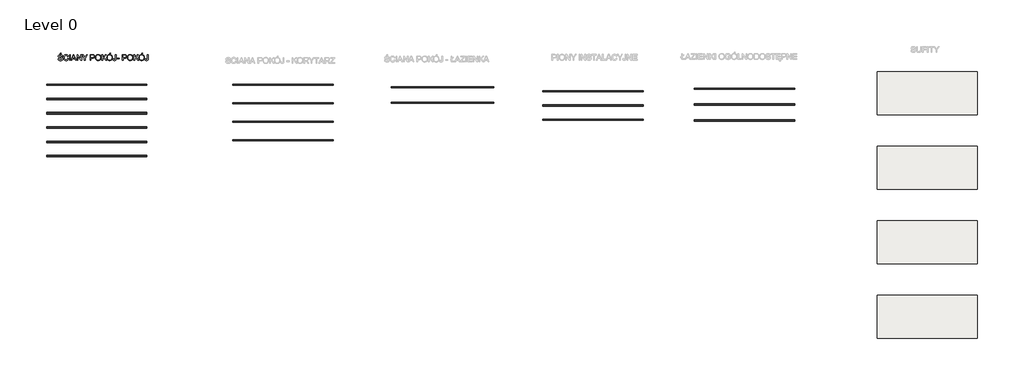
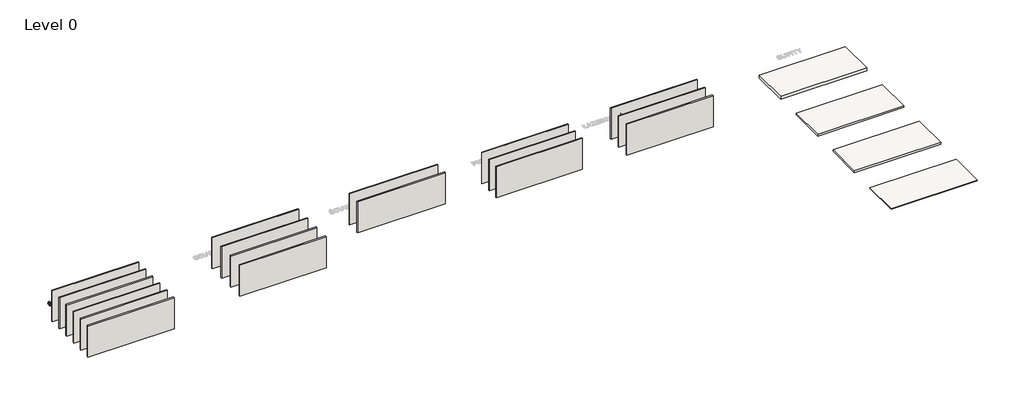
# One storey, part 1 of 4: 18 walls, 4 coverings, 1 proxy.
"""IFC4 building model written with IfcOpenShell, lengths in millimetres."""

from ifc_helpers import new_model, si_unit, frame, origin, origin_with_axes, place, context, project, spatial, polyline, outline, extrude, element, save

model = new_model("IFC4")

# Units and contexts
model_context = context("Model", 3, world=origin())
ifc_project = project(units=[si_unit("LENGTHUNIT", "METRE", prefix="MILLI")], contexts=[model_context])

# Site, building, storey
site = spatial("IfcSite", under=ifc_project)
building = spatial("IfcBuilding", under=site)
storey = spatial("IfcBuildingStorey", under=building, Name="Level 0", Elevation=0.0)

# Proxy
placement = place(None, origin())
element("IfcBuildingElementProxy", 1, Name="600mm Arial", ObjectType="600mm Arial", at=placement, inside=storey, context=model_context, shape_type="SweptSolid", body=[
    extrude(outline(polyline([(56580.0201357, 14469.7405008), (56655.3623684, 14469.7405008), (56664.0075952, 14427.930712), (56679.64258, 14394.3246918), (56704.0331563, 14367.6532471), (56738.9451577, 14346.6471852), (56781.6194691, 14333.0171573), (56829.2969757, 14328.4738146), (56871.2723113, 14331.9135113), (56908.0237226, 14342.2326012), (56937.8037702, 14358.5665618), (56958.8650144, 14380.0508703), (56971.3913963, 14404.7173581), (56975.566857, 14430.5978565), (56972.43986, 14455.8161673), (56963.0588691, 14477.6131755), (56944.0025818, 14496.2096103), (56911.8496954, 14511.826201), (56802.1472844, 14540.594573), (56730.1343839, 14559.6324663), (56684.057164, 14577.7506546), (56646.5515946, 14603.097724), (56619.9721204, 14633.8158706), (56604.1348005, 14669.2429068), (56598.8556939, 14708.7166448), (56600.4881703, 14731.152848), (56605.3855993, 14752.8440902), (56613.5479811, 14773.7903713), (56624.9753156, 14793.9916913), (56639.538844, 14812.6249144), (56657.1098078, 14828.8669045), (56677.6882069, 14842.7176616), (56701.2740414, 14854.1771857), (56754.2858369, 14869.5730472), (56812.9630151, 14874.7050011), (56876.5330239, 14869.3339239), (56932.1567815, 14853.2206925), (56956.4921755, 14841.2185424), (56977.8477253, 14826.6964007), (56996.223431, 14809.6542673), (57011.6192925, 14790.0921422), (57023.9157482, 14768.5802425), (57032.9932364, 14745.6887854), (57038.8517572, 14721.4177707), (57041.4913105, 14695.7671986), (56966.1490779, 14695.7671986), (56961.1090945, 14719.808287), (56952.3167149, 14740.7223784), (56939.7719388, 14758.5094729), (56923.4747664, 14773.1695704), (56903.1216951, 14784.6290945), (56878.409222, 14792.8144689), (56849.3373474, 14797.7256936), (56815.9060711, 14799.3627684), (56781.407937, 14797.7440877), (56751.9313921, 14792.8880453), (56727.4764365, 14784.7946414), (56708.0430701, 14773.463876), (56693.2358198, 14759.8430451), (56682.6592124, 14744.879445), (56676.313248, 14728.5730755), (56674.1979265, 14710.9239368), (56675.6970456, 14695.7396075), (56680.194403, 14681.9716238), (56687.6899987, 14669.6199858), (56698.1838326, 14658.6846935), (56714.7017342, 14648.3288153), (56740.7109912, 14637.8625726), (56821.2035718, 14616.5989932), (56904.2713263, 14596.4022717), (56954.5240068, 14578.7807241), (56997.4742298, 14551.4470919), (57014.0795033, 14535.3798458), (57027.4382183, 14517.7123129), (57037.7067245, 14498.5364639), (57045.0413717, 14477.9442693), (57050.9090896, 14432.5108429), (57049.2214309, 14408.9434025), (57044.158455, 14386.065741), (57035.7201617, 14363.8778581), (57023.9065511, 14342.379754), (57008.9245569, 14322.4037617), (56990.9811126, 14304.7822141), (56970.0762182, 14289.5151113), (56946.2098737, 14276.6024533), (56920.0764565, 14266.3339471), (56892.3703438, 14258.9992998), (56832.2400316, 14253.131582), (56793.6997941, 14254.7134746), (56758.4245093, 14259.4591523), (56726.4141772, 14267.3686152), (56697.6687978, 14278.4418633), (56672.0136272, 14292.6972906), (56649.2739213, 14310.1532913), (56629.4496803, 14330.8098653), (56612.5409041, 14354.6670127), (56598.9200732, 14380.9521812), (56588.9596682, 14408.8928188), (56582.6596891, 14438.4889253), (56580.0201357, 14469.7405008)])), origin_with_axes(), (0.0, 0.0, 1.0), 50.0),
    extrude(outline(polyline([(56758.9579382, 14902.9583383), (56815.4646127, 15015.9716872), (56909.6424034, 15015.9716872), (56815.4646127, 14902.9583383), (56758.9579382, 14902.9583383)])), origin_with_axes(), (0.0, 0.0, 1.0), 50.0),
    extrude(outline(polyline([(57587.7224969, 14476.8038351), (57663.0647295, 14457.3796657), (57648.1563117, 14410.5252951), (57628.299881, 14369.5846276), (57603.4954375, 14334.5576631), (57573.7429811, 14305.4444017), (57539.7138966, 14282.5575431), (57502.0795685, 14266.2097869), (57460.8399968, 14256.4011332), (57415.9951816, 14253.131582), (57370.0513189, 14255.6055884), (57328.6048136, 14263.0276077), (57291.6556657, 14275.3976398), (57259.2038752, 14292.7156847), (57230.8033852, 14314.7242251), (57206.0081387, 14341.1657435), (57184.8181358, 14372.0402399), (57167.2333764, 14407.3477144), (57153.4240061, 14445.5614566), (57143.5601701, 14485.1547564), (57137.6418685, 14526.1276136), (57135.6691013, 14568.4800283), (57137.8993859, 14613.9226517), (57144.5902396, 14656.3670369), (57155.7416626, 14695.8131839), (57171.3536548, 14732.2610925), (57191.0767283, 14765.1083562), (57214.5613951, 14793.752568), (57241.8076554, 14818.1937281), (57272.8155091, 14838.4318363), (57306.5318939, 14854.3013459), (57341.9037478, 14865.6367099), (57378.9310706, 14872.4379283), (57417.6138624, 14874.7050011), (57460.7066396, 14871.7711421), (57500.2217644, 14862.9695654), (57536.1592368, 14848.3002709), (57568.5190568, 14827.7632585), (57596.7677955, 14801.9011542), (57620.372024, 14771.256584), (57639.3317423, 14735.8295479), (57653.6469505, 14695.6200458), (57578.3047179, 14677.6674044), (57566.4405235, 14707.2957006), (57552.1850962, 14732.6105804), (57535.5384359, 14753.6120438), (57516.5005427, 14770.3000908), (57494.9610518, 14783.0150123), (57470.8095989, 14792.097099), (57444.0461837, 14797.5463511), (57414.6708064, 14799.3627684), (57380.8716481, 14797.3486145), (57349.9603635, 14791.3061528), (57321.9369525, 14781.2353831), (57296.8014151, 14767.1363057), (57274.8710497, 14749.6435168), (57256.4631544, 14729.391613), (57241.5777291, 14706.3805942), (57230.214774, 14680.6104604), (57215.8121939, 14625.4649493), (57211.0113339, 14568.6271811), (57216.6951107, 14499.0239076), (57223.7998317, 14467.753938), (57233.7464412, 14438.8384132), (57246.6958874, 14412.8521487), (57262.8091188, 14390.3699603), (57282.0861353, 14371.3918479), (57304.526937, 14355.9178115), (57329.0416735, 14343.9110628), (57354.5404943, 14335.3348138), (57381.0233994, 14330.1890644), (57408.4903889, 14328.4738146), (57441.245682, 14330.8098653), (57471.379816, 14337.8180173), (57498.8927907, 14349.4982706), (57523.7846062, 14365.8506253), (57545.4666513, 14386.801505), (57563.3503148, 14412.2773331), (57577.4355966, 14442.2781098), (57587.7224969, 14476.8038351)])), origin_with_axes(), (0.0, 0.0, 1.0), 50.0),
    extrude(outline(polyline([(57776.0780785, 14262.5493611), (57776.0780785, 14865.287222), (57851.4203111, 14865.287222), (57851.4203111, 14262.5493611), (57776.0780785, 14262.5493611)])), origin_with_axes(), (0.0, 0.0, 1.0), 50.0),
    extrude(outline(polyline([(57931.9128916, 14262.5493611), (58172.5077165, 14865.287222), (58236.6663364, 14865.287222), (58477.2611613, 14262.5493611), (58397.6514975, 14262.5493611), (58328.6368352, 14450.9049426), (58080.3900649, 14450.9049426), (58011.5225554, 14262.5493611), (57931.9128916, 14262.5493611)]), holes=[polyline([(58108.0547909, 14526.2471752), (58301.119262, 14526.2471752), (58246.8198795, 14674.4300429), (58204.5870264, 14789.9449894), (58167.0630629, 14687.3794891), (58108.0547909, 14526.2471752)])]), origin_with_axes(), (0.0, 0.0, 1.0), 50.0),
    extrude(outline(polyline([(58557.7537418, 14262.5493611), (58557.7537418, 14865.287222), (58638.3934752, 14865.287222), (58953.300463, 14387.7763922), (58953.300463, 14865.287222), (59028.6426956, 14865.287222), (59028.6426956, 14262.5493611), (58948.0029623, 14262.5493611), (58633.0959744, 14740.2073436), (58633.0959744, 14262.5493611), (58557.7537418, 14262.5493611)])), origin_with_axes(), (0.0, 0.0, 1.0), 50.0),
    extrude(outline(polyline([(59330.0116261, 14262.5493611), (59330.0116261, 14517.8594657), (59094.5671492, 14865.287222), (59183.4474392, 14865.287222), (59309.1159288, 14679.7275436), (59373.4217015, 14585.1082945), (59437.8746271, 14686.4965723), (59551.9180456, 14865.287222), (59640.7983356, 14865.287222), (59405.3538587, 14517.8594657), (59405.3538587, 14262.5493611), (59330.0116261, 14262.5493611)])), origin_with_axes(), (0.0, 0.0, 1.0), 50.0),
    extrude(outline(polyline([(59942.1672661, 14262.5493611), (59942.1672661, 14865.287222), (60165.5452135, 14865.287222), (60217.5637277, 14863.8524822), (60255.602726, 14859.5482629), (60295.7570457, 14848.8245027), (60328.811243, 14831.368502), (60355.4275053, 14806.3893146), (60376.2680204, 14773.095994), (60389.7325014, 14733.824591), (60394.2206617, 14690.9111563), (60391.1902338, 14653.9114246), (60382.09895, 14619.873143), (60366.9468103, 14588.7963115), (60345.7338148, 14560.68093), (60316.6113563, 14537.3756056), (60277.730828, 14520.7289453), (60229.0922297, 14510.7409491), (60170.6955615, 14507.4116171), (60017.5094987, 14507.4116171), (60017.5094987, 14262.5493611), (59942.1672661, 14262.5493611)]), holes=[polyline([(60017.5094987, 14582.7538497), (60175.1101454, 14582.7538497), (60211.3465219, 14584.4828951), (60241.9175157, 14589.6700312), (60266.8231268, 14598.3152581), (60286.0633552, 14610.4185757), (60300.41995, 14625.6580874), (60310.6746606, 14643.7118963), (60316.827487, 14664.5800025), (60318.8784291, 14688.2624059), (60314.0407809, 14722.1075495), (60299.5278362, 14750.6551923), (60277.1422168, 14772.1395008), (60248.6865444, 14784.7946414), (60219.6238668, 14788.6574024), (60173.3443118, 14789.9449894), (60017.5094987, 14789.9449894), (60017.5094987, 14582.7538497)])]), origin_with_axes(), (0.0, 0.0, 1.0), 50.0),
    extrude(outline(polyline([(60469.5628944, 14555.9720404), (60474.5844836, 14626.6697629), (60489.6492513, 14689.2556873), (60514.7571975, 14743.7298137), (60531.0773625, 14767.9249527), (60549.9083221, 14790.0921422), (60592.9965008, 14827.1102679), (60641.9156091, 14853.5517863), (60696.665647, 14869.4166974), (60757.2466146, 14874.7050011), (60797.7964075, 14872.2217976), (60836.3044553, 14864.7721872), (60872.7707581, 14852.3561699), (60907.1953158, 14834.9737456), (60938.6124382, 14813.1491462), (60966.056435, 14787.4066036), (60989.5273063, 14757.7461177), (61009.0250521, 14724.1676886), (61024.3473372, 14687.4346714), (61035.2918265, 14648.3104212), (61041.8585201, 14606.7949381), (61044.047418, 14562.8882219), (61041.743557, 14518.4020917), (61034.831974, 14476.3255885), (61023.3126691, 14436.6587124), (61007.1856421, 14399.4014633), (60986.8325707, 14365.5379256), (60962.6351325, 14336.0521837), (60934.5933274, 14310.9442375), (60902.7071555, 14290.2140871), (60868.232014, 14273.9904911), (60832.4233003, 14262.4022083), (60795.2810144, 14255.4492386), (60756.8051562, 14253.131582), (60715.5471904, 14255.6929604), (60676.5333048, 14263.3770956), (60639.7634994, 14276.1839875), (60605.2377742, 14294.1136363), (60573.85744, 14316.4716645), (60546.5238077, 14342.563695), (60523.2368774, 14372.3897278), (60503.9966491, 14405.9497628), (60488.9318814, 14441.8964323), (60478.171333, 14478.8823683), (60471.715004, 14516.9075711), (60469.5628944, 14555.9720404)]), holes=[polyline([(60544.905127, 14555.2362764), (60548.6713189, 14505.2870986), (60559.9698947, 14460.9481211), (60578.8008543, 14422.219344), (60605.1641978, 14389.1007674), (60637.2113181, 14362.5764756), (60673.0936082, 14343.6305528), (60712.8110681, 14332.2629992), (60756.3636978, 14328.4738146), (60800.6612885, 14332.2997874), (60840.847798, 14343.7777056), (60876.9232261, 14362.9075694), (60908.887573, 14389.6893786), (60935.0577784, 14423.506931), (60953.7507823, 14463.7440242), (60964.9665846, 14510.4006583), (60968.7051854, 14563.4768331), (60967.1048987, 14597.9565731), (60962.3040387, 14630.1738389), (60954.3026053, 14660.1286303), (60943.1005985, 14687.8209475), (60928.8221786, 14712.887507), (60911.5915057, 14734.9650252), (60891.4085797, 14754.0535022), (60868.2734007, 14770.152938), (60842.9033386, 14782.9322388), (60816.0157633, 14792.0603108), (60787.6106748, 14797.537154), (60757.688073, 14799.3627684), (60715.648358, 14795.8448969), (60676.6436694, 14785.2912821), (60640.6740074, 14767.7019242), (60607.7393717, 14743.0768232), (60580.2493896, 14710.2295595), (60560.6136882, 14667.9737139), (60548.8322673, 14616.3092862), (60544.905127, 14555.2362764)])]), origin_with_axes(), (0.0, 0.0, 1.0), 50.0),
    extrude(outline(polyline([(61147.6429879, 14262.5493611), (61147.6429879, 14865.287222), (61222.9852205, 14865.287222), (61222.9852205, 14570.2458619), (61532.0060964, 14865.287222), (61637.3674998, 14865.287222), (61377.9371168, 14617.48191), (61646.7852789, 14262.5493611), (61554.6676273, 14262.5493611), (61324.5206511, 14566.5670419), (61222.9852205, 14469.7405008), (61222.9852205, 14262.5493611), (61147.6429879, 14262.5493611)])), origin_with_axes(), (0.0, 0.0, 1.0), 50.0),
    extrude(outline(polyline([(61910.4830931, 14902.9583383), (61966.9897675, 15015.9716872), (62061.1675583, 15015.9716872), (61966.9897675, 14902.9583383), (61910.4830931, 14902.9583383)])), origin_with_axes(), (0.0, 0.0, 1.0), 50.0),
    extrude(outline(polyline([(61675.0386161, 14555.9720404), (61680.0602054, 14626.6697629), (61695.1249731, 14689.2556873), (61720.2329193, 14743.7298137), (61736.5530843, 14767.9249527), (61755.3840439, 14790.0921422), (61798.4722226, 14827.1102679), (61847.3913309, 14853.5517863), (61902.1413688, 14869.4166974), (61962.7223364, 14874.7050011), (62003.2721293, 14872.2217976), (62041.7801771, 14864.7721872), (62078.2464799, 14852.3561699), (62112.6710376, 14834.9737456), (62144.08816, 14813.1491462), (62171.5321568, 14787.4066036), (62195.0030281, 14757.7461177), (62214.5007739, 14724.1676886), (62229.823059, 14687.4346714), (62240.7675483, 14648.3104212), (62247.3342419, 14606.7949381), (62249.5231398, 14562.8882219), (62247.2192788, 14518.4020917), (62240.3076958, 14476.3255885), (62228.7883909, 14436.6587124), (62212.6613639, 14399.4014633), (62192.3082925, 14365.5379256), (62168.1108543, 14336.0521837), (62140.0690492, 14310.9442375), (62108.1828773, 14290.2140871), (62073.7077358, 14273.9904911), (62037.8990221, 14262.4022083), (62000.7567362, 14255.4492386), (61962.280878, 14253.131582), (61921.0229122, 14255.6929604), (61882.0090266, 14263.3770956), (61845.2392212, 14276.1839875), (61810.713496, 14294.1136363), (61779.3331618, 14316.4716645), (61751.9995295, 14342.563695), (61728.7125992, 14372.3897278), (61709.4723709, 14405.9497628), (61694.4076032, 14441.8964323), (61683.6470548, 14478.8823683), (61677.1907258, 14516.9075711), (61675.0386161, 14555.9720404)]), holes=[polyline([(61750.3808488, 14555.2362764), (61754.1470407, 14505.2870986), (61765.4456165, 14460.9481211), (61784.2765761, 14422.219344), (61810.6399196, 14389.1007674), (61842.6870399, 14362.5764756), (61878.56933, 14343.6305528), (61918.2867899, 14332.2629992), (61961.8394196, 14328.4738146), (62006.1370103, 14332.2997874), (62046.3235198, 14343.7777056), (62082.3989479, 14362.9075694), (62114.3632948, 14389.6893786), (62140.5335002, 14423.506931), (62159.2265041, 14463.7440242), (62170.4423064, 14510.4006583), (62174.1809072, 14563.4768331), (62172.5806205, 14597.9565731), (62167.7797605, 14630.1738389), (62159.7783271, 14660.1286303), (62148.5763203, 14687.8209475), (62134.2979004, 14712.887507), (62117.0672275, 14734.9650252), (62096.8843015, 14754.0535022), (62073.7491225, 14770.152938), (62048.3790604, 14782.9322388), (62021.4914851, 14792.0603108), (61993.0863966, 14797.537154), (61963.1637948, 14799.3627684), (61921.1240798, 14795.8448969), (61882.1193912, 14785.2912821), (61846.1497292, 14767.7019242), (61813.2150935, 14743.0768232), (61785.7251114, 14710.2295595), (61766.08941, 14667.9737139), (61754.3079891, 14616.3092862), (61750.3808488, 14555.2362764)])]), origin_with_axes(), (0.0, 0.0, 1.0), 50.0),
    extrude(outline(polyline([(62315.4475933, 14431.7750789), (62390.789826, 14441.4871635), (62393.4477734, 14411.5323721), (62398.6257125, 14386.7095345), (62406.3236432, 14367.0186507), (62416.5415656, 14352.4597207), (62429.1231299, 14341.9658868), (62443.9119861, 14334.4702911), (62460.9081342, 14329.9729338), (62480.1115744, 14328.4738146), (62507.9418473, 14331.8767231), (62531.6886301, 14342.0854484), (62550.0091535, 14358.1618916), (62561.5606481, 14379.1679536), (62567.6858833, 14409.5734005), (62569.7276284, 14453.8479986), (62569.7276284, 14865.287222), (62645.069861, 14865.287222), (62645.069861, 14455.1723738), (62640.5265184, 14388.0890919), (62634.8473401, 14360.9623933), (62626.8964905, 14338.1123229), (62616.476233, 14318.6283727), (62603.388831, 14301.6000349), (62587.6342845, 14287.0273093), (62569.2125936, 14274.9101961), (62526.2991589, 14258.5762355), (62476.5799072, 14253.131582), (62439.4514169, 14255.9412807), (62406.9398456, 14264.370377), (62379.0451933, 14278.4188707), (62355.76746, 14298.0867618), (62337.5205131, 14323.3004741), (62324.7182196, 14353.986431), (62317.3605797, 14390.1446326), (62315.4475933, 14431.7750789)])), origin_with_axes(), (0.0, 0.0, 1.0), 50.0),
    extrude(outline(polyline([(62729.8298727, 14441.4871635), (62729.8298727, 14516.8293962), (62965.2743496, 14516.8293962), (62965.2743496, 14441.4871635), (62729.8298727, 14441.4871635)])), origin_with_axes(), (0.0, 0.0, 1.0), 50.0),
    extrude(outline(polyline([(63294.8966173, 14262.5493611), (63294.8966173, 14865.287222), (63518.2745648, 14865.287222), (63570.2930789, 14863.8524822), (63608.3320772, 14859.5482629), (63648.486397, 14848.8245027), (63681.5405942, 14831.368502), (63708.1568566, 14806.3893146), (63728.9973716, 14773.095994), (63742.4618526, 14733.824591), (63746.950013, 14690.9111563), (63743.919585, 14653.9114246), (63734.8283012, 14619.873143), (63719.6761616, 14588.7963115), (63698.463166, 14560.68093), (63669.3407076, 14537.3756056), (63630.4601792, 14520.7289453), (63581.8215809, 14510.7409491), (63523.4249127, 14507.4116171), (63370.2388499, 14507.4116171), (63370.2388499, 14262.5493611), (63294.8966173, 14262.5493611)]), holes=[polyline([(63370.2388499, 14582.7538497), (63527.8394967, 14582.7538497), (63564.0758732, 14584.4828951), (63594.646867, 14589.6700312), (63619.5524781, 14598.3152581), (63638.7927064, 14610.4185757), (63653.1493013, 14625.6580874), (63663.4040119, 14643.7118963), (63669.5568382, 14664.5800025), (63671.6077804, 14688.2624059), (63666.7701321, 14722.1075495), (63652.2571874, 14750.6551923), (63629.871568, 14772.1395008), (63601.4158957, 14784.7946414), (63572.3532181, 14788.6574024), (63526.0736631, 14789.9449894), (63370.2388499, 14789.9449894), (63370.2388499, 14582.7538497)])]), origin_with_axes(), (0.0, 0.0, 1.0), 50.0),
    extrude(outline(polyline([(63822.2922456, 14555.9720404), (63827.3138348, 14626.6697629), (63842.3786025, 14689.2556873), (63867.4865487, 14743.7298137), (63883.8067137, 14767.9249527), (63902.6376733, 14790.0921422), (63945.725852, 14827.1102679), (63994.6449603, 14853.5517863), (64049.3949983, 14869.4166974), (64109.9759658, 14874.7050011), (64150.5257587, 14872.2217976), (64189.0338066, 14864.7721872), (64225.5001094, 14852.3561699), (64259.9246671, 14834.9737456), (64291.3417894, 14813.1491462), (64318.7857863, 14787.4066036), (64342.2566576, 14757.7461177), (64361.7544033, 14724.1676886), (64377.0766884, 14687.4346714), (64388.0211778, 14648.3104212), (64394.5878714, 14606.7949381), (64396.7767693, 14562.8882219), (64394.4729083, 14518.4020917), (64387.5613253, 14476.3255885), (64376.0420203, 14436.6587124), (64359.9149933, 14399.4014633), (64339.561922, 14365.5379256), (64315.3644837, 14336.0521837), (64287.3226786, 14310.9442375), (64255.4365067, 14290.2140871), (64220.9613652, 14273.9904911), (64185.1526515, 14262.4022083), (64148.0103656, 14255.4492386), (64109.5345074, 14253.131582), (64068.2765417, 14255.6929604), (64029.2626561, 14263.3770956), (63992.4928507, 14276.1839875), (63957.9671254, 14294.1136363), (63926.5867912, 14316.4716645), (63899.253159, 14342.563695), (63875.9662287, 14372.3897278), (63856.7260003, 14405.9497628), (63841.6612326, 14441.8964323), (63830.9006843, 14478.8823683), (63824.4443553, 14516.9075711), (63822.2922456, 14555.9720404)]), holes=[polyline([(63897.6344782, 14555.2362764), (63901.4006701, 14505.2870986), (63912.6992459, 14460.9481211), (63931.5302055, 14422.219344), (63957.893549, 14389.1007674), (63989.9406693, 14362.5764756), (64025.8229594, 14343.6305528), (64065.5404193, 14332.2629992), (64109.093049, 14328.4738146), (64153.3906398, 14332.2997874), (64193.5771492, 14343.7777056), (64229.6525774, 14362.9075694), (64261.6169242, 14389.6893786), (64287.7871297, 14423.506931), (64306.4801335, 14463.7440242), (64317.6959359, 14510.4006583), (64321.4345366, 14563.4768331), (64319.83425, 14597.9565731), (64315.0333899, 14630.1738389), (64307.0319565, 14660.1286303), (64295.8299498, 14687.8209475), (64281.5515298, 14712.887507), (64264.3208569, 14734.9650252), (64244.1379309, 14754.0535022), (64221.002752, 14770.152938), (64195.6326899, 14782.9322388), (64168.7451146, 14792.0603108), (64140.340026, 14797.537154), (64110.4174242, 14799.3627684), (64068.3777092, 14795.8448969), (64029.3730207, 14785.2912821), (63993.4033586, 14767.7019242), (63960.468723, 14743.0768232), (63932.9787409, 14710.2295595), (63913.3430394, 14667.9737139), (63901.5616185, 14616.3092862), (63897.6344782, 14555.2362764)])]), origin_with_axes(), (0.0, 0.0, 1.0), 50.0),
    extrude(outline(polyline([(64500.3723391, 14262.5493611), (64500.3723391, 14865.287222), (64575.7145717, 14865.287222), (64575.7145717, 14570.2458619), (64884.7354477, 14865.287222), (64990.0968511, 14865.287222), (64730.6664681, 14617.48191), (64999.5146302, 14262.5493611), (64907.3969786, 14262.5493611), (64677.2500024, 14566.5670419), (64575.7145717, 14469.7405008), (64575.7145717, 14262.5493611), (64500.3723391, 14262.5493611)])), origin_with_axes(), (0.0, 0.0, 1.0), 50.0),
    extrude(outline(polyline([(65263.2124443, 14902.9583383), (65319.7191188, 15015.9716872), (65413.8969095, 15015.9716872), (65319.7191188, 14902.9583383), (65263.2124443, 14902.9583383)])), origin_with_axes(), (0.0, 0.0, 1.0), 50.0),
    extrude(outline(polyline([(65027.7679674, 14555.9720404), (65032.7895566, 14626.6697629), (65047.8543243, 14689.2556873), (65072.9622705, 14743.7298137), (65089.2824355, 14767.9249527), (65108.1133951, 14790.0921422), (65151.2015738, 14827.1102679), (65200.1206821, 14853.5517863), (65254.8707201, 14869.4166974), (65315.4516876, 14874.7050011), (65356.0014805, 14872.2217976), (65394.5095284, 14864.7721872), (65430.9758312, 14852.3561699), (65465.4003889, 14834.9737456), (65496.8175112, 14813.1491462), (65524.2615081, 14787.4066036), (65547.7323794, 14757.7461177), (65567.2301251, 14724.1676886), (65582.5524102, 14687.4346714), (65593.4968996, 14648.3104212), (65600.0635932, 14606.7949381), (65602.2524911, 14562.8882219), (65599.9486301, 14518.4020917), (65593.0370471, 14476.3255885), (65581.5177421, 14436.6587124), (65565.3907151, 14399.4014633), (65545.0376438, 14365.5379256), (65520.8402055, 14336.0521837), (65492.7984004, 14310.9442375), (65460.9122285, 14290.2140871), (65426.437087, 14273.9904911), (65390.6283733, 14262.4022083), (65353.4860874, 14255.4492386), (65315.0102292, 14253.131582), (65273.7522635, 14255.6929604), (65234.7383779, 14263.3770956), (65197.9685725, 14276.1839875), (65163.4428472, 14294.1136363), (65132.062513, 14316.4716645), (65104.7288808, 14342.563695), (65081.4419505, 14372.3897278), (65062.2017221, 14405.9497628), (65047.1369544, 14441.8964323), (65036.3764061, 14478.8823683), (65029.9200771, 14516.9075711), (65027.7679674, 14555.9720404)]), holes=[polyline([(65103.1102, 14555.2362764), (65106.8763919, 14505.2870986), (65118.1749677, 14460.9481211), (65137.0059273, 14422.219344), (65163.3692708, 14389.1007674), (65195.4163911, 14362.5764756), (65231.2986812, 14343.6305528), (65271.0161411, 14332.2629992), (65314.5687708, 14328.4738146), (65358.8663616, 14332.2997874), (65399.052871, 14343.7777056), (65435.1282992, 14362.9075694), (65467.092646, 14389.6893786), (65493.2628515, 14423.506931), (65511.9558553, 14463.7440242), (65523.1716577, 14510.4006583), (65526.9102584, 14563.4768331), (65525.3099718, 14597.9565731), (65520.5091117, 14630.1738389), (65512.5076783, 14660.1286303), (65501.3056716, 14687.8209475), (65487.0272516, 14712.887507), (65469.7965787, 14734.9650252), (65449.6136527, 14754.0535022), (65426.4784738, 14770.152938), (65401.1084117, 14782.9322388), (65374.2208363, 14792.0603108), (65345.8157478, 14797.537154), (65315.893146, 14799.3627684), (65273.853431, 14795.8448969), (65234.8487425, 14785.2912821), (65198.8790804, 14767.7019242), (65165.9444448, 14743.0768232), (65138.4544627, 14710.2295595), (65118.8187612, 14667.9737139), (65107.0373403, 14616.3092862), (65103.1102, 14555.2362764)])]), origin_with_axes(), (0.0, 0.0, 1.0), 50.0),
    extrude(outline(polyline([(65668.1769446, 14431.7750789), (65743.5191772, 14441.4871635), (65746.1771246, 14411.5323721), (65751.3550637, 14386.7095345), (65759.0529945, 14367.0186507), (65769.2709169, 14352.4597207), (65781.8524811, 14341.9658868), (65796.6413373, 14334.4702911), (65813.6374855, 14329.9729338), (65832.8409256, 14328.4738146), (65860.6711986, 14331.8767231), (65884.4179814, 14342.0854484), (65902.7385047, 14358.1618916), (65914.2899994, 14379.1679536), (65920.4152346, 14409.5734005), (65922.4569797, 14453.8479986), (65922.4569797, 14865.287222), (65997.7992123, 14865.287222), (65997.7992123, 14455.1723738), (65993.2558696, 14388.0890919), (65987.5766913, 14360.9623933), (65979.6258417, 14338.1123229), (65969.2055842, 14318.6283727), (65956.1181822, 14301.6000349), (65940.3636358, 14287.0273093), (65921.9419449, 14274.9101961), (65879.0285101, 14258.5762355), (65829.3092585, 14253.131582), (65792.1807681, 14255.9412807), (65759.6691968, 14264.370377), (65731.7745445, 14278.4188707), (65708.4968113, 14298.0867618), (65690.2498643, 14323.3004741), (65677.4475709, 14353.986431), (65670.089931, 14390.1446326), (65668.1769446, 14431.7750789)])), origin_with_axes(), (0.0, 0.0, 1.0), 50.0),
])

# Coverings
element("IfcCovering", 2, ObjectType="Nida Sufit DK/WO/CD60-12,5/SonicC12n0", at=placement, inside=storey, context=model_context, shape_type="SweptSolid", body=[
    extrude(outline(polyline([(152819.3958424, 13061.6831257), (152819.3958424, 8561.6831257), (142319.3958424, 8561.6831257), (142319.3958424, 13061.6831257), (152819.3958424, 13061.6831257)])), frame((0.0, 0.0, 100.0), z_axis=(0.0, 0.0, 1.0), x_axis=(1.0, 0.0, 0.0)), (0.0, 0.0, 1.0), 400.0),
])
element("IfcCovering", 3, ObjectType="Nida Sufit DK/WO/CD60-12,5/Expert", at=placement, inside=storey, context=model_context, shape_type="SweptSolid", body=[
    extrude(outline(polyline([(152819.3958424, 5273.6803076), (152819.3958424, 773.6803076), (142319.3958424, 773.6803076), (142319.3958424, 5273.6803076), (152819.3958424, 5273.6803076)])), frame((0.0, 0.0, 100.0), z_axis=(0.0, 0.0, 1.0), x_axis=(1.0, 0.0, 0.0)), (0.0, 0.0, 1.0), 222.5),
])
element("IfcCovering", 4, ObjectType="Nida Sufit DK/WO/CD60-25/Expert", at=placement, inside=storey, context=model_context, shape_type="SweptSolid", body=[
    extrude(outline(polyline([(152819.3958424, -2514.3225104), (152819.3958424, -7014.3225104), (142319.3958424, -7014.3225104), (142319.3958424, -2514.3225104), (152819.3958424, -2514.3225104)])), frame((0.0, 0.0, 100.0), z_axis=(0.0, 0.0, 1.0), x_axis=(1.0, 0.0, 0.0)), (0.0, 0.0, 1.0), 235.0),
])
element("IfcCovering", 5, ObjectType="NIDA Sufit C50/U50/500-25/Expert", at=placement, inside=storey, context=model_context, shape_type="SweptSolid", body=[
    extrude(outline(polyline([(152819.3958424, -10302.3253285), (152819.3958424, -14802.3253285), (142319.3958424, -14802.3253285), (142319.3958424, -10302.3253285), (152819.3958424, -10302.3253285)])), frame((0.0, 0.0, 100.0), z_axis=(0.0, 0.0, 1.0), x_axis=(1.0, 0.0, 0.0)), (0.0, 0.0, 1.0), 50.0),
])

# Walls
element("IfcWall", 6, ObjectType="Nida Ściana 125A75/Expert+Cicha", at=placement, inside=storey, context=model_context, shape_type="SweptSolid", body=[
    extrude(outline(polyline([(85357.528524, 11661.4896758), (74857.528524, 11661.4896758), (74857.528524, 11786.4896758), (85357.528524, 11786.4896758), (85357.528524, 11661.4896758)])), origin_with_axes(), (0.0, 0.0, 1.0), 4000.0),
])
element("IfcWall", 7, ObjectType="Nida Szacht 95A50/Ogień+", at=placement, inside=storey, context=model_context, shape_type="SweptSolid", body=[
    extrude(outline(polyline([(117822.4212895, 10985.0707663), (107322.4212895, 10985.0707663), (107322.4212895, 11080.0707663), (117822.4212895, 11080.0707663), (117822.4212895, 10985.0707663)])), origin_with_axes(), (0.0, 0.0, 1.0), 4000.0),
])
element("IfcWall", 8, ObjectType="Nida Szacht 130UU100/Hydro", at=placement, inside=storey, context=model_context, shape_type="SweptSolid", body=[
    extrude(outline(polyline([(117822.4212895, 9474.4457663), (107322.4212895, 9474.4457663), (107322.4212895, 9604.4457663), (117822.4212895, 9604.4457663), (117822.4212895, 9474.4457663)])), origin_with_axes(), (0.0, 0.0, 1.0), 4000.0),
])
element("IfcWall", 9, ObjectType="Nida Szacht 77,5A75/Ogień+", at=placement, inside=storey, context=model_context, shape_type="SweptSolid", body=[
    extrude(outline(polyline([(117822.4212895, 8007.5707663), (107322.4212895, 8007.5707663), (107322.4212895, 8085.0707663), (117822.4212895, 8085.0707663), (117822.4212895, 8007.5707663)])), origin_with_axes(), (0.0, 0.0, 1.0), 4000.0),
])
element("IfcWall", 10, ObjectType="Nida Ściana 125A75/Woda+Cicha", at=placement, inside=storey, context=model_context, shape_type="SweptSolid", body=[
    extrude(outline(polyline([(133696.9121915, 11240.6700003), (123196.9121915, 11240.6700003), (123196.9121915, 11365.6700003), (133696.9121915, 11365.6700003), (133696.9121915, 11240.6700003)])), origin_with_axes(), (0.0, 0.0, 1.0), 4000.0),
])
element("IfcWall", 11, ObjectType="Nida Ściana 150A100/Woda+Cicha", at=placement, inside=storey, context=model_context, shape_type="SweptSolid", body=[
    extrude(outline(polyline([(133696.9121915, 9558.1700003), (123196.9121915, 9558.1700003), (123196.9121915, 9708.1700003), (133696.9121915, 9708.1700003), (133696.9121915, 9558.1700003)])), origin_with_axes(), (0.0, 0.0, 1.0), 4000.0),
])
element("IfcWall", 12, ObjectType="Nida Ściana 150C50/Cicha", at=placement, inside=storey, context=model_context, shape_type="SweptSolid", body=[
    extrude(outline(polyline([(133696.9121915, 7885.6700003), (123196.9121915, 7885.6700003), (123196.9121915, 8040.6700003), (133696.9121915, 8040.6700003), (133696.9121915, 7885.6700003)])), origin_with_axes(), (0.0, 0.0, 1.0), 4000.0),
])
element("IfcWall", 13, ObjectType="Nida Ściana 100A50/Expert+Cicha", at=placement, inside=storey, context=model_context, shape_type="SweptSolid", body=[
    extrude(outline(polyline([(65863.7672621, 11673.9896758), (55363.7672621, 11673.9896758), (55363.7672621, 11773.9896758), (65863.7672621, 11773.9896758), (65863.7672621, 11673.9896758)])), origin_with_axes(), (0.0, 0.0, 1.0), 4000.0),
])
element("IfcWall", 14, ObjectType="Nida Ściana 155B50/Expert+Cicha", at=placement, inside=storey, context=model_context, shape_type="SweptSolid", body=[
    extrude(outline(polyline([(65863.7672621, 10149.9896758), (55363.7672621, 10149.9896758), (55363.7672621, 10304.9896758), (65863.7672621, 10304.9896758), (65863.7672621, 10149.9896758)])), origin_with_axes(), (0.0, 0.0, 1.0), 4000.0),
])
element("IfcWall", 15, ObjectType="Nida Ściana 205B75/Expert", at=placement, inside=storey, context=model_context, shape_type="SweptSolid", body=[
    extrude(outline(polyline([(65863.7672621, 8628.4896758), (55363.7672621, 8628.4896758), (55363.7672621, 8833.4896758), (65863.7672621, 8833.4896758), (65863.7672621, 8628.4896758)])), origin_with_axes(), (0.0, 0.0, 1.0), 4000.0),
])
element("IfcWall", 16, ObjectType="Nida Ściana 150AA100/Cicha", at=placement, inside=storey, context=model_context, shape_type="SweptSolid", body=[
    extrude(outline(polyline([(65863.7672621, 7159.4896758), (55363.7672621, 7159.4896758), (55363.7672621, 7309.4896758), (65863.7672621, 7309.4896758), (65863.7672621, 7159.4896758)])), origin_with_axes(), (0.0, 0.0, 1.0), 4000.0),
])
element("IfcWall", 17, ObjectType="Nida Ściana 155B50-PWA/Expert", at=placement, inside=storey, context=model_context, shape_type="SweptSolid", body=[
    extrude(outline(polyline([(65863.7672621, 5660.4896758), (55363.7672621, 5660.4896758), (55363.7672621, 5815.4896758), (65863.7672621, 5815.4896758), (65863.7672621, 5660.4896758)])), origin_with_axes(), (0.0, 0.0, 1.0), 4000.0),
])
element("IfcWall", 18, ObjectType="Nida Ściana 155B50/Cicha", at=placement, inside=storey, context=model_context, shape_type="SweptSolid", body=[
    extrude(outline(polyline([(65863.7672621, 4163.9896758), (55363.7672621, 4163.9896758), (55363.7672621, 4318.9896758), (65863.7672621, 4318.9896758), (65863.7672621, 4163.9896758)])), origin_with_axes(), (0.0, 0.0, 1.0), 4000.0),
])
element("IfcWall", 19, ObjectType="Nida Ściana 150A100/Expert+Cicha", at=placement, inside=storey, context=model_context, shape_type="SweptSolid", body=[
    extrude(outline(polyline([(85357.528524, 9711.4896758), (74857.528524, 9711.4896758), (74857.528524, 9861.4896758), (85357.528524, 9861.4896758), (85357.528524, 9711.4896758)])), origin_with_axes(), (0.0, 0.0, 1.0), 4000.0),
])
element("IfcWall", 20, ObjectType="Nida Ściana 150A100/Cicha", at=placement, inside=storey, context=model_context, shape_type="SweptSolid", body=[
    extrude(outline(polyline([(85357.528524, 7773.9896758), (74857.528524, 7773.9896758), (74857.528524, 7923.9896758), (85357.528524, 7923.9896758), (85357.528524, 7773.9896758)])), origin_with_axes(), (0.0, 0.0, 1.0), 4000.0),
])
element("IfcWall", 21, ObjectType="Nida Ściana 150A100/Expert", at=placement, inside=storey, context=model_context, shape_type="SweptSolid", body=[
    extrude(outline(polyline([(85357.528524, 5836.4896758), (74857.528524, 5836.4896758), (74857.528524, 5986.4896758), (85357.528524, 5986.4896758), (85357.528524, 5836.4896758)])), origin_with_axes(), (0.0, 0.0, 1.0), 4000.0),
])
element("IfcWall", 22, ObjectType="Nida Ściana 100A50/Woda", at=placement, inside=storey, context=model_context, shape_type="SweptSolid", body=[
    extrude(outline(polyline([(102164.7533698, 11398.7821221), (91451.5590422, 11398.7821221), (91451.5590422, 11498.7821221), (102164.7533698, 11498.7821221), (102164.7533698, 11398.7821221)])), origin_with_axes(), (0.0, 0.0, 1.0), 4000.0),
])
element("IfcWall", 23, ObjectType="Nida Ściana 125A75/Woda", at=placement, inside=storey, context=model_context, shape_type="SweptSolid", body=[
    extrude(outline(polyline([(102164.7533698, 9769.1019439), (91451.5590422, 9769.1019439), (91451.5590422, 9894.1019439), (102164.7533698, 9894.1019439), (102164.7533698, 9769.1019439)])), origin_with_axes(), (0.0, 0.0, 1.0), 4000.0),
])

save(model, "model.ifc")
